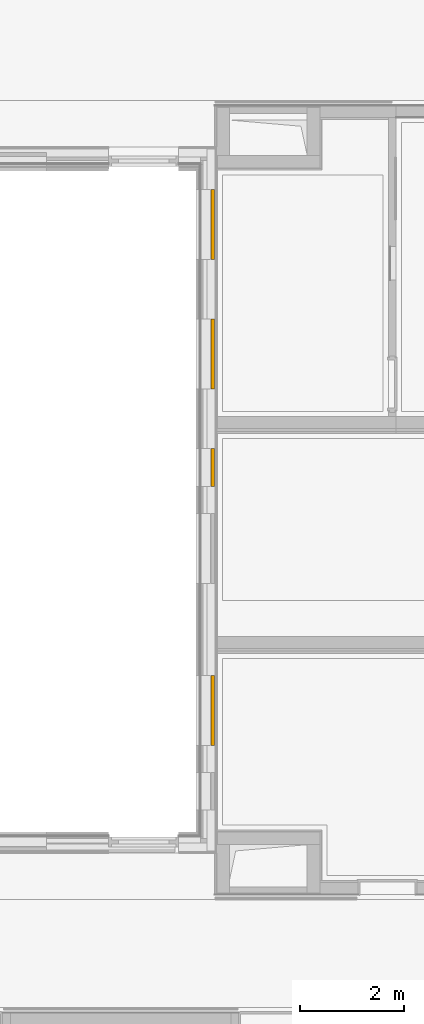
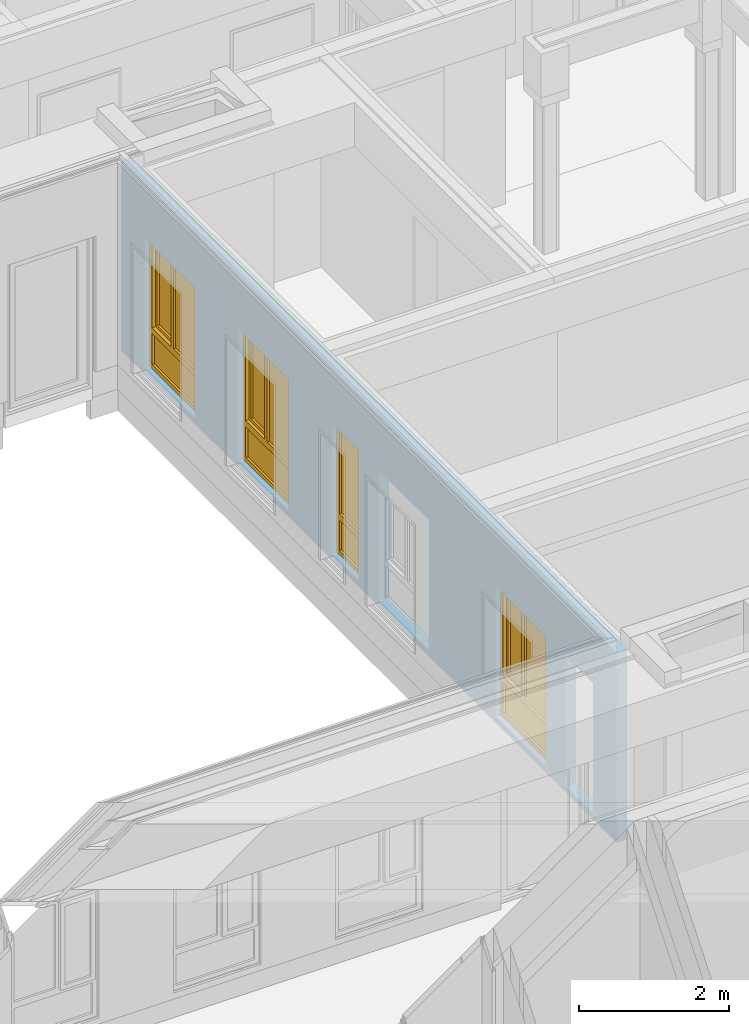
# One storey, part 82 of 207: 4 windows, 6 openings, plus 1 element that does not belong to this part.
"""IFC4 building model written with IfcOpenShell, lengths in metres."""

from ifc_helpers import new_model, entity, si_unit, converted_unit, derived_unit, frame, frame_2d, origin, origin_with_axes, place, context, subcontext, project, spatial, polyline, rectangle, outline, extrude, closed_shell, open_shell, surface_model, source, transform, mapped, material, element, fill, save


model = new_model("IFC4")

# Units and contexts
model_context = context("Model", 3, precision=1e-05, world=origin())
body_context = subcontext(model_context, "Body", "Model", "MODEL_VIEW")
ifc_project = project(units=[si_unit("LENGTHUNIT", "METRE"), si_unit("AREAUNIT", "SQUARE_METRE"), si_unit("VOLUMEUNIT", "CUBIC_METRE"), si_unit("MASSUNIT", "GRAM", prefix="KILO"), converted_unit("PLANEANGLEUNIT", "DEGREE", entity("IfcPlaneAngleMeasure", 0.0174532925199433), si_unit("PLANEANGLEUNIT", "RADIAN"), dimensions=[0, 0, 0, 0, 0, 0, 0]), derived_unit("THERMALTRANSMITTANCEUNIT", [(si_unit("POWERUNIT", "WATT"), 1), (si_unit("THERMODYNAMICTEMPERATUREUNIT", "KELVIN"), -1), (si_unit("LENGTHUNIT", "METRE"), -2)]), derived_unit("VOLUMETRICFLOWRATEUNIT", [(si_unit("LENGTHUNIT", "METRE"), 3), (converted_unit("TIMEUNIT", "hour", entity("IfcTimeMeasure", 3600.0), si_unit("TIMEUNIT", "SECOND"), dimensions=[0, 0, 1, 0, 0, 0, 0]), -1), (si_unit("LENGTHUNIT", "METRE"), -1)])], contexts=[model_context])

# Site, building, storey
site_placement = place(None, origin())
site = spatial("IfcSite", under=ifc_project, at=site_placement, Name="Psychiatrie Neubau Wunstorf", CompositionType="ELEMENT")
building_placement = place(site_placement, origin())
building = spatial("IfcBuilding", under=site, at=building_placement, Name="Neubau H2 Stationsgebäude", CompositionType="ELEMENT")
storey_placement = place(building_placement, frame((0.0, 0.0, -0.2)))
storey = spatial("IfcBuildingStorey", under=building, at=storey_placement, Name="H2 Ebene 0", CompositionType="ELEMENT", Elevation=-0.2)

# Wall, openings, windows
ifc_material = material(Name="WA-HD")
wall_placement = place(storey_placement, frame((26.825, 7.61, 0.5), z_axis=(0.0, 0.0, 1.0), x_axis=(5.49959003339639e-16, 1.0, 0.0)))
wall = element("IfcWall", 1, at=wall_placement, inside=storey, material=ifc_material, context=body_context, shape_type="SweptSolid", body=[
    extrude(rectangle(XDim=13.23, YDim=0.16, at=frame_2d((6.615, 0.08), x_axis=(1.0, 0.0))), origin_with_axes(), (0.0, 0.0, 1.0), 3.1),
])
opening_1_placement = place(wall_placement, frame((3.23244477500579, 0.159999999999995, 0.1), z_axis=(0.0, -1.0, 0.0), x_axis=(0.0, 0.0, 1.0)))
opening_1 = element("IfcOpeningElement", 2, at=opening_1_placement, cuts=wall, Name="Fensteröffnung", ObjectType="Opening", context=body_context, shape_type="SweptSolid", body=[
    extrude(outline(polyline([(2.12, 1.35), (2.12, 0.0), (0.0, 0.0), (0.0, 1.35), (2.12, 1.35)])), origin_with_axes(), (0.0, 0.0, 1.0), 0.16),
])
opening_2_placement = place(wall_placement, frame((7.60505754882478, 0.160000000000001, 0.1), z_axis=(0.0, -1.0, 0.0), x_axis=(0.0, 0.0, 1.0)))
opening_2 = element("IfcOpeningElement", 3, at=opening_2_placement, cuts=wall, Name="Fensteröffnung", ObjectType="Opening", context=body_context, shape_type="SweptSolid", body=[
    extrude(outline(polyline([(2.12, 0.725), (2.12, 0.0), (0.0, 0.0), (0.0, 0.725), (2.12, 0.725)])), origin_with_axes(), (0.0, 0.0, 1.0), 0.16),
])
opening_3_placement = place(wall_placement, frame((12.605, 0.159999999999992, 0.1), z_axis=(0.0, -1.0, 0.0), x_axis=(0.0, 0.0, 1.0)))
opening_3 = element("IfcOpeningElement", 4, at=opening_3_placement, cuts=wall, Name="Fensteröffnung", ObjectType="Opening", context=body_context, shape_type="SweptSolid", body=[
    extrude(outline(polyline([(2.12, 1.35), (2.12, 0.0), (0.0, 0.0), (0.0, 1.35), (2.12, 1.35)])), origin_with_axes(), (0.0, 0.0, 1.0), 0.16),
])
opening_4_placement = place(wall_placement, frame((10.1054401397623, 0.159999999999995, 0.1), z_axis=(0.0, -1.0, 0.0), x_axis=(0.0, 0.0, 1.0)))
opening_4 = element("IfcOpeningElement", 5, at=opening_4_placement, cuts=wall, Name="Fensteröffnung", ObjectType="Opening", context=body_context, shape_type="SweptSolid", body=[
    extrude(outline(polyline([(2.15, 1.35), (2.15, 0.0), (0.0, 0.0), (0.0, 1.35), (2.15, 1.35)])), origin_with_axes(), (0.0, 0.0, 1.0), 0.16),
])
opening_5_placement = place(wall_placement, frame((1.35744478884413, 0.15999999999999, 0.1), z_axis=(0.0, -1.0, 0.0), x_axis=(0.0, 0.0, 1.0)))
element("IfcOpeningElement", 6, at=opening_5_placement, cuts=wall, Name="Fensteröffnung", ObjectType="Opening", context=body_context, shape_type="SweptSolid", body=[
    extrude(outline(polyline([(2.12, 0.725), (2.12, 0.0), (0.0, 0.0), (0.0, 0.725), (2.12, 0.725)])), origin_with_axes(), (0.0, 0.0, 1.0), 0.16),
])
opening_6_placement = place(wall_placement, frame((6.35580066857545, 0.159999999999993, 0.1), z_axis=(0.0, -1.0, 0.0), x_axis=(0.0, 0.0, 1.0)))
element("IfcOpeningElement", 7, at=opening_6_placement, cuts=wall, Name="Fensteröffnung", ObjectType="Opening", context=body_context, shape_type="SweptSolid", body=[
    extrude(outline(polyline([(2.12, 1.35), (2.12, 0.0), (0.0, 0.0), (0.0, 1.35), (2.12, 1.35)])), origin_with_axes(), (0.0, 0.0, 1.0), 0.16),
])
shared_shape_1 = source(origin_with_axes(), body_context, "Body", "SurfaceModel", [
    surface_model("IfcShellBasedSurfaceModel", [(1.35, 0.0, 2.12), (1.35, 0.0, 0.0), (1.28, 0.0, 0.0), (1.28, 0.0, 2.12), (1.35, 0.0700000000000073, 0.0), (1.35, 0.0700000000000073, 2.12), (1.28, 0.0700000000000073, 2.12), (1.28, 0.0700000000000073, 0.0)], [closed_shell([[[0, 1, 2, 3]], [[4, 5, 6, 7]], [[1, 0, 5, 4]], [[2, 1, 4, 7]], [[3, 2, 7, 6]], [[0, 3, 6, 5]]], orient=[[False], [False], [False], [False], [False], [False]])]),
    surface_model("IfcShellBasedSurfaceModel", [(0.0699999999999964, 0.0, 2.12), (0.0699999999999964, 0.0, 0.0), (0.0, 0.0, 0.0), (0.0, 0.0, 2.12), (0.0699999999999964, 0.0700000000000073, 0.0), (0.0699999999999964, 0.0700000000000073, 2.12), (0.0, 0.0700000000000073, 2.12), (0.0, 0.0700000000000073, 0.0)], [closed_shell([[[0, 1, 2, 3]], [[4, 5, 6, 7]], [[1, 0, 5, 4]], [[2, 1, 4, 7]], [[3, 2, 7, 6]], [[0, 3, 6, 5]]], orient=[[False], [False], [False], [False], [False], [False]])]),
    surface_model("IfcShellBasedSurfaceModel", [(1.28, 0.0, 0.07), (1.28, 0.0, 0.0), (0.0699999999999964, 0.0, 0.0), (0.0699999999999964, 0.0, 0.07), (1.28, 0.0700000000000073, 0.0), (1.28, 0.0700000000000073, 0.07), (0.0699999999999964, 0.0700000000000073, 0.07), (0.0699999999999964, 0.0700000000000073, 0.0)], [closed_shell([[[0, 1, 2, 3]], [[4, 5, 6, 7]], [[1, 0, 5, 4]], [[2, 1, 4, 7]], [[3, 2, 7, 6]], [[0, 3, 6, 5]]], orient=[[False], [False], [False], [False], [False], [False]])]),
    surface_model("IfcShellBasedSurfaceModel", [(1.28, 0.0, 2.12), (1.28, 0.0, 2.05), (0.0699999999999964, 0.0, 2.05), (0.0699999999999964, 0.0, 2.12), (1.28, 0.0700000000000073, 2.05), (1.28, 0.0700000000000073, 2.12), (0.0699999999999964, 0.0700000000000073, 2.12), (0.0699999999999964, 0.0700000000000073, 2.05)], [closed_shell([[[0, 1, 2, 3]], [[4, 5, 6, 7]], [[1, 0, 5, 4]], [[2, 1, 4, 7]], [[3, 2, 7, 6]], [[0, 3, 6, 5]]], orient=[[False], [False], [False], [False], [False], [False]])]),
    surface_model("IfcShellBasedSurfaceModel", [(1.28, 0.0, 0.67), (1.28, 0.0, 0.57), (0.0699999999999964, 0.0, 0.57), (0.0699999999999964, 0.0, 0.67), (1.28, 0.0700000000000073, 0.57), (1.28, 0.0700000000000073, 0.67), (0.0699999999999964, 0.0700000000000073, 0.67), (0.0699999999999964, 0.0700000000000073, 0.57)], [closed_shell([[[0, 1, 2, 3]], [[4, 5, 6, 7]], [[1, 0, 5, 4]], [[2, 1, 4, 7]], [[3, 2, 7, 6]], [[0, 3, 6, 5]]], orient=[[False], [False], [False], [False], [False], [False]])]),
    surface_model("IfcShellBasedSurfaceModel", [(1.28, 0.0350000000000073, 0.07), (0.0699999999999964, 0.0350000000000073, 0.07), (0.0699999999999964, 0.0350000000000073, 0.57), (1.28, 0.0350000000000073, 0.57)], [open_shell([[[0, 1, 2, 3]]], orient=[[False]])]),
    surface_model("IfcShellBasedSurfaceModel", [(0.779999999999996, 0.0, 2.05), (0.779999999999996, 0.0, 0.67), (0.709999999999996, 0.0, 0.67), (0.709999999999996, 0.0, 2.05), (0.779999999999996, 0.0700000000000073, 0.67), (0.779999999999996, 0.0700000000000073, 2.05), (0.709999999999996, 0.0700000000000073, 2.05), (0.709999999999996, 0.0700000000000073, 0.67)], [closed_shell([[[0, 1, 2, 3]], [[4, 5, 6, 7]], [[1, 0, 5, 4]], [[2, 1, 4, 7]], [[3, 2, 7, 6]], [[0, 3, 6, 5]]], orient=[[False], [False], [False], [False], [False], [False]])]),
    surface_model("IfcShellBasedSurfaceModel", [(1.3, -0.0499999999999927, 2.07), (1.3, -0.0499999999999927, 0.65), (1.23, -0.0499999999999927, 0.65), (1.23, -0.0499999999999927, 2.07), (1.3, 0.0200000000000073, 0.65), (1.3, 0.0200000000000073, 2.07), (1.23, 0.0200000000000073, 2.07), (1.23, 0.0200000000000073, 0.65)], [closed_shell([[[0, 1, 2, 3]], [[4, 5, 6, 7]], [[1, 0, 5, 4]], [[2, 1, 4, 7]], [[3, 2, 7, 6]], [[0, 3, 6, 5]]], orient=[[False], [False], [False], [False], [False], [False]])]),
    surface_model("IfcShellBasedSurfaceModel", [(0.829999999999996, -0.0499999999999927, 2.07), (0.829999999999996, -0.0499999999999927, 0.65), (0.759999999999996, -0.0499999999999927, 0.65), (0.759999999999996, -0.0499999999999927, 2.07), (0.829999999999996, 0.0200000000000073, 0.65), (0.829999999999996, 0.0200000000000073, 2.07), (0.759999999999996, 0.0200000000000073, 2.07), (0.759999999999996, 0.0200000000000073, 0.65)], [closed_shell([[[0, 1, 2, 3]], [[4, 5, 6, 7]], [[1, 0, 5, 4]], [[2, 1, 4, 7]], [[3, 2, 7, 6]], [[0, 3, 6, 5]]], orient=[[False], [False], [False], [False], [False], [False]])]),
    surface_model("IfcShellBasedSurfaceModel", [(1.23, -0.0499999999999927, 0.72), (1.23, -0.0499999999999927, 0.65), (0.829999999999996, -0.0499999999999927, 0.65), (0.829999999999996, -0.0499999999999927, 0.72), (1.23, 0.0200000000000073, 0.65), (1.23, 0.0200000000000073, 0.72), (0.829999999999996, 0.0200000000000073, 0.72), (0.829999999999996, 0.0200000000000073, 0.65)], [closed_shell([[[0, 1, 2, 3]], [[4, 5, 6, 7]], [[1, 0, 5, 4]], [[2, 1, 4, 7]], [[3, 2, 7, 6]], [[0, 3, 6, 5]]], orient=[[False], [False], [False], [False], [False], [False]])]),
    surface_model("IfcShellBasedSurfaceModel", [(1.23, -0.0499999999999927, 2.07), (1.23, -0.0499999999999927, 2.0), (0.829999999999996, -0.0499999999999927, 2.0), (0.829999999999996, -0.0499999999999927, 2.07), (1.23, 0.0200000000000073, 2.0), (1.23, 0.0200000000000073, 2.07), (0.829999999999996, 0.0200000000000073, 2.07), (0.829999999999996, 0.0200000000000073, 2.0)], [closed_shell([[[0, 1, 2, 3]], [[4, 5, 6, 7]], [[1, 0, 5, 4]], [[2, 1, 4, 7]], [[3, 2, 7, 6]], [[0, 3, 6, 5]]], orient=[[False], [False], [False], [False], [False], [False]])]),
    surface_model("IfcShellBasedSurfaceModel", [(0.709999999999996, 0.0350000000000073, 0.67), (0.0699999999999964, 0.0350000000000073, 0.67), (0.0699999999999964, 0.0350000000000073, 2.05), (0.709999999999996, 0.0350000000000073, 2.05)], [open_shell([[[0, 1, 2, 3]]], orient=[[False]])]),
    surface_model("IfcShellBasedSurfaceModel", [(1.23, -0.0149999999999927, 0.72), (0.829999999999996, -0.0149999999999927, 0.72), (0.829999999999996, -0.0149999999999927, 2.0), (1.23, -0.0149999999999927, 2.0)], [open_shell([[[0, 1, 2, 3]]], orient=[[False]])]),
])
window_1_placement = place(opening_1_placement, frame((0.0, 1.35, 0.146000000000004), z_axis=(1.0, 0.0, 0.0), x_axis=(0.0, -1.0, -5.49959003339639e-16)))
window_1 = element("IfcWindow", 8, at=window_1_placement, inside=storey, Name="Fenster", OverallHeight=2.12, OverallWidth=1.35, PartitioningType="USERDEFINED", PredefinedType="WINDOW", context=body_context, shape_type="MappedRepresentation", body=[
    mapped(shared_shape_1, transform((0.0, 0.0, 0.0), x_axis=(1.0, 0.0, 0.0), y_axis=(0.0, 1.0, 0.0), z_axis=(0.0, 0.0, 1.0), scale=1.0)),
])
fill(opening_1, window_1)
shared_shape_2 = source(origin_with_axes(), body_context, "Body", "SurfaceModel", [
    surface_model("IfcShellBasedSurfaceModel", [(0.725000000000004, 0.0, 2.12), (0.725000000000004, 0.0, 0.0), (0.655000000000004, 0.0, 0.0), (0.655000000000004, 0.0, 2.12), (0.725000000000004, 0.0699999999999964, 0.0), (0.725000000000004, 0.0699999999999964, 2.12), (0.655000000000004, 0.0699999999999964, 2.12), (0.655000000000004, 0.0699999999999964, 0.0)], [closed_shell([[[0, 1, 2, 3]], [[4, 5, 6, 7]], [[1, 0, 5, 4]], [[2, 1, 4, 7]], [[3, 2, 7, 6]], [[0, 3, 6, 5]]], orient=[[False], [False], [False], [False], [False], [False]])]),
    surface_model("IfcShellBasedSurfaceModel", [(0.0700000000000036, 0.0, 2.12), (0.0700000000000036, 0.0, 0.0), (0.0, 0.0, 0.0), (0.0, 0.0, 2.12), (0.0700000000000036, 0.0699999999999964, 0.0), (0.0700000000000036, 0.0699999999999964, 2.12), (0.0, 0.0699999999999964, 2.12), (0.0, 0.0699999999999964, 0.0)], [closed_shell([[[0, 1, 2, 3]], [[4, 5, 6, 7]], [[1, 0, 5, 4]], [[2, 1, 4, 7]], [[3, 2, 7, 6]], [[0, 3, 6, 5]]], orient=[[False], [False], [False], [False], [False], [False]])]),
    surface_model("IfcShellBasedSurfaceModel", [(0.655000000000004, 0.0, 0.07), (0.655000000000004, 0.0, 0.0), (0.0700000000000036, 0.0, 0.0), (0.0700000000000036, 0.0, 0.07), (0.655000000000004, 0.0699999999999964, 0.0), (0.655000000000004, 0.0699999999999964, 0.07), (0.0700000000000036, 0.0699999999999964, 0.07), (0.0700000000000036, 0.0699999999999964, 0.0)], [closed_shell([[[0, 1, 2, 3]], [[4, 5, 6, 7]], [[1, 0, 5, 4]], [[2, 1, 4, 7]], [[3, 2, 7, 6]], [[0, 3, 6, 5]]], orient=[[False], [False], [False], [False], [False], [False]])]),
    surface_model("IfcShellBasedSurfaceModel", [(0.655000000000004, 0.0, 2.12), (0.655000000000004, 0.0, 2.05), (0.0700000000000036, 0.0, 2.05), (0.0700000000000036, 0.0, 2.12), (0.655000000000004, 0.0699999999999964, 2.05), (0.655000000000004, 0.0699999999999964, 2.12), (0.0700000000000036, 0.0699999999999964, 2.12), (0.0700000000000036, 0.0699999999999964, 2.05)], [closed_shell([[[0, 1, 2, 3]], [[4, 5, 6, 7]], [[1, 0, 5, 4]], [[2, 1, 4, 7]], [[3, 2, 7, 6]], [[0, 3, 6, 5]]], orient=[[False], [False], [False], [False], [False], [False]])]),
    surface_model("IfcShellBasedSurfaceModel", [(0.655000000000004, 0.0, 0.67), (0.655000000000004, 0.0, 0.57), (0.0700000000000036, 0.0, 0.57), (0.0700000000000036, 0.0, 0.67), (0.655000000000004, 0.0699999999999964, 0.57), (0.655000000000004, 0.0699999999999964, 0.67), (0.0700000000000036, 0.0699999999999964, 0.67), (0.0700000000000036, 0.0699999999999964, 0.57)], [closed_shell([[[0, 1, 2, 3]], [[4, 5, 6, 7]], [[1, 0, 5, 4]], [[2, 1, 4, 7]], [[3, 2, 7, 6]], [[0, 3, 6, 5]]], orient=[[False], [False], [False], [False], [False], [False]])]),
    surface_model("IfcShellBasedSurfaceModel", [(0.655000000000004, 0.0349999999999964, 0.07), (0.0700000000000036, 0.0349999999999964, 0.07), (0.0700000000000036, 0.0349999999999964, 0.57), (0.655000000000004, 0.0349999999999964, 0.57)], [open_shell([[[0, 1, 2, 3]]], orient=[[False]])]),
    surface_model("IfcShellBasedSurfaceModel", [(0.655000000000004, 0.0349999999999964, 0.67), (0.0700000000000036, 0.0349999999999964, 0.67), (0.0700000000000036, 0.0349999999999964, 2.05), (0.655000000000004, 0.0349999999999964, 2.05)], [open_shell([[[0, 1, 2, 3]]], orient=[[False]])]),
])
window_2_placement = place(opening_2_placement, frame((0.0, 0.0, 0.076), z_axis=(1.0, 0.0, 0.0), x_axis=(0.0, 1.0, 5.49959003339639e-16)))
window_2 = element("IfcWindow", 9, at=window_2_placement, inside=storey, Name="Fenster", OverallHeight=2.12, OverallWidth=0.725, PartitioningType="USERDEFINED", PredefinedType="WINDOW", context=body_context, shape_type="MappedRepresentation", body=[
    mapped(shared_shape_2, transform((0.0, 0.0, 0.0), x_axis=(1.0, 0.0, 0.0), y_axis=(0.0, 1.0, 0.0), z_axis=(0.0, 0.0, 1.0), scale=1.0)),
])
fill(opening_2, window_2)
shared_shape_3 = source(origin_with_axes(), body_context, "Body", "SurfaceModel", [
    surface_model("IfcShellBasedSurfaceModel", [(1.34999999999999, 0.0, 2.12), (1.34999999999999, 0.0, 0.0), (1.27999999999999, 0.0, 0.0), (1.27999999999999, 0.0, 2.12), (1.34999999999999, 0.0700000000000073, 0.0), (1.34999999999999, 0.0700000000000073, 2.12), (1.27999999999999, 0.0700000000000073, 2.12), (1.27999999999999, 0.0700000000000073, 0.0)], [closed_shell([[[0, 1, 2, 3]], [[4, 5, 6, 7]], [[1, 0, 5, 4]], [[2, 1, 4, 7]], [[3, 2, 7, 6]], [[0, 3, 6, 5]]], orient=[[False], [False], [False], [False], [False], [False]])]),
    surface_model("IfcShellBasedSurfaceModel", [(0.0699999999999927, 0.0, 2.12), (0.0699999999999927, 0.0, 0.0), (0.0, 0.0, 0.0), (0.0, 0.0, 2.12), (0.0699999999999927, 0.0700000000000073, 0.0), (0.0699999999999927, 0.0700000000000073, 2.12), (0.0, 0.0700000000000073, 2.12), (0.0, 0.0700000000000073, 0.0)], [closed_shell([[[0, 1, 2, 3]], [[4, 5, 6, 7]], [[1, 0, 5, 4]], [[2, 1, 4, 7]], [[3, 2, 7, 6]], [[0, 3, 6, 5]]], orient=[[False], [False], [False], [False], [False], [False]])]),
    surface_model("IfcShellBasedSurfaceModel", [(1.27999999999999, 0.0, 0.07), (1.27999999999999, 0.0, 0.0), (0.0699999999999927, 0.0, 0.0), (0.0699999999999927, 0.0, 0.07), (1.27999999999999, 0.0700000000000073, 0.0), (1.27999999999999, 0.0700000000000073, 0.07), (0.0699999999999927, 0.0700000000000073, 0.07), (0.0699999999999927, 0.0700000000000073, 0.0)], [closed_shell([[[0, 1, 2, 3]], [[4, 5, 6, 7]], [[1, 0, 5, 4]], [[2, 1, 4, 7]], [[3, 2, 7, 6]], [[0, 3, 6, 5]]], orient=[[False], [False], [False], [False], [False], [False]])]),
    surface_model("IfcShellBasedSurfaceModel", [(1.27999999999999, 0.0, 2.12), (1.27999999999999, 0.0, 2.05), (0.0699999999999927, 0.0, 2.05), (0.0699999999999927, 0.0, 2.12), (1.27999999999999, 0.0700000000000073, 2.05), (1.27999999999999, 0.0700000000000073, 2.12), (0.0699999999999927, 0.0700000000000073, 2.12), (0.0699999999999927, 0.0700000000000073, 2.05)], [closed_shell([[[0, 1, 2, 3]], [[4, 5, 6, 7]], [[1, 0, 5, 4]], [[2, 1, 4, 7]], [[3, 2, 7, 6]], [[0, 3, 6, 5]]], orient=[[False], [False], [False], [False], [False], [False]])]),
    surface_model("IfcShellBasedSurfaceModel", [(1.27999999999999, 0.0, 0.67), (1.27999999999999, 0.0, 0.57), (0.0699999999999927, 0.0, 0.57), (0.0699999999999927, 0.0, 0.67), (1.27999999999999, 0.0700000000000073, 0.57), (1.27999999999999, 0.0700000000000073, 0.67), (0.0699999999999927, 0.0700000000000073, 0.67), (0.0699999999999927, 0.0700000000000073, 0.57)], [closed_shell([[[0, 1, 2, 3]], [[4, 5, 6, 7]], [[1, 0, 5, 4]], [[2, 1, 4, 7]], [[3, 2, 7, 6]], [[0, 3, 6, 5]]], orient=[[False], [False], [False], [False], [False], [False]])]),
    surface_model("IfcShellBasedSurfaceModel", [(1.27999999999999, 0.0350000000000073, 0.07), (0.0699999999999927, 0.0350000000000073, 0.07), (0.0699999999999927, 0.0350000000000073, 0.57), (1.27999999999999, 0.0350000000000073, 0.57)], [open_shell([[[0, 1, 2, 3]]], orient=[[False]])]),
    surface_model("IfcShellBasedSurfaceModel", [(0.779999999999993, 0.0, 2.05), (0.779999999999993, 0.0, 0.67), (0.709999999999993, 0.0, 0.67), (0.709999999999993, 0.0, 2.05), (0.779999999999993, 0.0700000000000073, 0.67), (0.779999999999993, 0.0700000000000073, 2.05), (0.709999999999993, 0.0700000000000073, 2.05), (0.709999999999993, 0.0700000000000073, 0.67)], [closed_shell([[[0, 1, 2, 3]], [[4, 5, 6, 7]], [[1, 0, 5, 4]], [[2, 1, 4, 7]], [[3, 2, 7, 6]], [[0, 3, 6, 5]]], orient=[[False], [False], [False], [False], [False], [False]])]),
    surface_model("IfcShellBasedSurfaceModel", [(1.29999999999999, -0.0499999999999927, 2.07), (1.29999999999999, -0.0499999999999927, 0.65), (1.22999999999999, -0.0499999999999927, 0.65), (1.22999999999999, -0.0499999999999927, 2.07), (1.29999999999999, 0.0200000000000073, 0.65), (1.29999999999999, 0.0200000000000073, 2.07), (1.22999999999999, 0.0200000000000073, 2.07), (1.22999999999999, 0.0200000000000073, 0.65)], [closed_shell([[[0, 1, 2, 3]], [[4, 5, 6, 7]], [[1, 0, 5, 4]], [[2, 1, 4, 7]], [[3, 2, 7, 6]], [[0, 3, 6, 5]]], orient=[[False], [False], [False], [False], [False], [False]])]),
    surface_model("IfcShellBasedSurfaceModel", [(0.829999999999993, -0.0499999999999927, 2.07), (0.829999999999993, -0.0499999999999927, 0.65), (0.759999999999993, -0.0499999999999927, 0.65), (0.759999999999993, -0.0499999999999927, 2.07), (0.829999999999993, 0.0200000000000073, 0.65), (0.829999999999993, 0.0200000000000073, 2.07), (0.759999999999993, 0.0200000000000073, 2.07), (0.759999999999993, 0.0200000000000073, 0.65)], [closed_shell([[[0, 1, 2, 3]], [[4, 5, 6, 7]], [[1, 0, 5, 4]], [[2, 1, 4, 7]], [[3, 2, 7, 6]], [[0, 3, 6, 5]]], orient=[[False], [False], [False], [False], [False], [False]])]),
    surface_model("IfcShellBasedSurfaceModel", [(1.22999999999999, -0.0499999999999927, 0.72), (1.22999999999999, -0.0499999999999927, 0.65), (0.829999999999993, -0.0499999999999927, 0.65), (0.829999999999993, -0.0499999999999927, 0.72), (1.22999999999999, 0.0200000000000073, 0.65), (1.22999999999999, 0.0200000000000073, 0.72), (0.829999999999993, 0.0200000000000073, 0.72), (0.829999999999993, 0.0200000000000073, 0.65)], [closed_shell([[[0, 1, 2, 3]], [[4, 5, 6, 7]], [[1, 0, 5, 4]], [[2, 1, 4, 7]], [[3, 2, 7, 6]], [[0, 3, 6, 5]]], orient=[[False], [False], [False], [False], [False], [False]])]),
    surface_model("IfcShellBasedSurfaceModel", [(1.22999999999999, -0.0499999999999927, 2.07), (1.22999999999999, -0.0499999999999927, 2.0), (0.829999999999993, -0.0499999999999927, 2.0), (0.829999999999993, -0.0499999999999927, 2.07), (1.22999999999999, 0.0200000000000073, 2.0), (1.22999999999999, 0.0200000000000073, 2.07), (0.829999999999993, 0.0200000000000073, 2.07), (0.829999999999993, 0.0200000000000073, 2.0)], [closed_shell([[[0, 1, 2, 3]], [[4, 5, 6, 7]], [[1, 0, 5, 4]], [[2, 1, 4, 7]], [[3, 2, 7, 6]], [[0, 3, 6, 5]]], orient=[[False], [False], [False], [False], [False], [False]])]),
    surface_model("IfcShellBasedSurfaceModel", [(0.709999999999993, 0.0350000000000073, 0.67), (0.0699999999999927, 0.0350000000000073, 0.67), (0.0699999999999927, 0.0350000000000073, 2.05), (0.709999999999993, 0.0350000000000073, 2.05)], [open_shell([[[0, 1, 2, 3]]], orient=[[False]])]),
    surface_model("IfcShellBasedSurfaceModel", [(1.22999999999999, -0.0149999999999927, 0.72), (0.829999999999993, -0.0149999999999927, 0.72), (0.829999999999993, -0.0149999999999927, 2.0), (1.22999999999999, -0.0149999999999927, 2.0)], [open_shell([[[0, 1, 2, 3]]], orient=[[False]])]),
])
window_3_placement = place(opening_3_placement, frame((0.0, 1.35, 0.146), z_axis=(1.0, 0.0, 0.0), x_axis=(0.0, -1.0, -5.49959003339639e-16)))
window_3 = element("IfcWindow", 10, at=window_3_placement, inside=storey, Name="Fenster", OverallHeight=2.12, OverallWidth=1.35, PartitioningType="USERDEFINED", PredefinedType="WINDOW", context=body_context, shape_type="MappedRepresentation", body=[
    mapped(shared_shape_3, transform((0.0, 0.0, 0.0), x_axis=(1.0, 0.0, 0.0), y_axis=(0.0, 1.0, 0.0), z_axis=(0.0, 0.0, 1.0), scale=1.0)),
])
fill(opening_3, window_3)
shared_shape_4 = source(origin_with_axes(), body_context, "Body", "SurfaceModel", [
    surface_model("IfcShellBasedSurfaceModel", [(1.34999999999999, 0.0, 2.15), (1.34999999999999, 0.0, 0.0), (1.27999999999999, 0.0, 0.0), (1.27999999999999, 0.0, 2.15), (1.34999999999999, 0.0700000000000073, 0.0), (1.34999999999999, 0.0700000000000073, 2.15), (1.27999999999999, 0.0700000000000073, 2.15), (1.27999999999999, 0.0700000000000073, 0.0)], [closed_shell([[[0, 1, 2, 3]], [[4, 5, 6, 7]], [[1, 0, 5, 4]], [[2, 1, 4, 7]], [[3, 2, 7, 6]], [[0, 3, 6, 5]]], orient=[[False], [False], [False], [False], [False], [False]])]),
    surface_model("IfcShellBasedSurfaceModel", [(0.0699999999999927, 0.0, 2.15), (0.0699999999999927, 0.0, 0.0), (0.0, 0.0, 0.0), (0.0, 0.0, 2.15), (0.0699999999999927, 0.0700000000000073, 0.0), (0.0699999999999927, 0.0700000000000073, 2.15), (0.0, 0.0700000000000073, 2.15), (0.0, 0.0700000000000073, 0.0)], [closed_shell([[[0, 1, 2, 3]], [[4, 5, 6, 7]], [[1, 0, 5, 4]], [[2, 1, 4, 7]], [[3, 2, 7, 6]], [[0, 3, 6, 5]]], orient=[[False], [False], [False], [False], [False], [False]])]),
    surface_model("IfcShellBasedSurfaceModel", [(1.27999999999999, 0.0, 0.07), (1.27999999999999, 0.0, 0.0), (0.0699999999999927, 0.0, 0.0), (0.0699999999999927, 0.0, 0.07), (1.27999999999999, 0.0700000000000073, 0.0), (1.27999999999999, 0.0700000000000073, 0.07), (0.0699999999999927, 0.0700000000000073, 0.07), (0.0699999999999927, 0.0700000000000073, 0.0)], [closed_shell([[[0, 1, 2, 3]], [[4, 5, 6, 7]], [[1, 0, 5, 4]], [[2, 1, 4, 7]], [[3, 2, 7, 6]], [[0, 3, 6, 5]]], orient=[[False], [False], [False], [False], [False], [False]])]),
    surface_model("IfcShellBasedSurfaceModel", [(1.27999999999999, 0.0, 2.15), (1.27999999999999, 0.0, 2.08), (0.0699999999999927, 0.0, 2.08), (0.0699999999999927, 0.0, 2.15), (1.27999999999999, 0.0700000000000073, 2.08), (1.27999999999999, 0.0700000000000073, 2.15), (0.0699999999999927, 0.0700000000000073, 2.15), (0.0699999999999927, 0.0700000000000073, 2.08)], [closed_shell([[[0, 1, 2, 3]], [[4, 5, 6, 7]], [[1, 0, 5, 4]], [[2, 1, 4, 7]], [[3, 2, 7, 6]], [[0, 3, 6, 5]]], orient=[[False], [False], [False], [False], [False], [False]])]),
    surface_model("IfcShellBasedSurfaceModel", [(1.27999999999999, 0.0, 0.67), (1.27999999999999, 0.0, 0.57), (0.0699999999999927, 0.0, 0.57), (0.0699999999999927, 0.0, 0.67), (1.27999999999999, 0.0700000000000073, 0.57), (1.27999999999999, 0.0700000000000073, 0.67), (0.0699999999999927, 0.0700000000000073, 0.67), (0.0699999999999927, 0.0700000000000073, 0.57)], [closed_shell([[[0, 1, 2, 3]], [[4, 5, 6, 7]], [[1, 0, 5, 4]], [[2, 1, 4, 7]], [[3, 2, 7, 6]], [[0, 3, 6, 5]]], orient=[[False], [False], [False], [False], [False], [False]])]),
    surface_model("IfcShellBasedSurfaceModel", [(1.27999999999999, 0.0350000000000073, 0.07), (0.0699999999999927, 0.0350000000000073, 0.07), (0.0699999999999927, 0.0350000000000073, 0.57), (1.27999999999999, 0.0350000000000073, 0.57)], [open_shell([[[0, 1, 2, 3]]], orient=[[False]])]),
    surface_model("IfcShellBasedSurfaceModel", [(0.779999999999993, 0.0, 2.08), (0.779999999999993, 0.0, 0.67), (0.709999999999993, 0.0, 0.67), (0.709999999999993, 0.0, 2.08), (0.779999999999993, 0.0700000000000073, 0.67), (0.779999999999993, 0.0700000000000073, 2.08), (0.709999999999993, 0.0700000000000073, 2.08), (0.709999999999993, 0.0700000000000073, 0.67)], [closed_shell([[[0, 1, 2, 3]], [[4, 5, 6, 7]], [[1, 0, 5, 4]], [[2, 1, 4, 7]], [[3, 2, 7, 6]], [[0, 3, 6, 5]]], orient=[[False], [False], [False], [False], [False], [False]])]),
    surface_model("IfcShellBasedSurfaceModel", [(1.29999999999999, -0.0499999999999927, 2.1), (1.29999999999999, -0.0499999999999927, 0.65), (1.22999999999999, -0.0499999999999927, 0.65), (1.22999999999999, -0.0499999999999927, 2.1), (1.29999999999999, 0.0200000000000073, 0.65), (1.29999999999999, 0.0200000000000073, 2.1), (1.22999999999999, 0.0200000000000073, 2.1), (1.22999999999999, 0.0200000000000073, 0.65)], [closed_shell([[[0, 1, 2, 3]], [[4, 5, 6, 7]], [[1, 0, 5, 4]], [[2, 1, 4, 7]], [[3, 2, 7, 6]], [[0, 3, 6, 5]]], orient=[[False], [False], [False], [False], [False], [False]])]),
    surface_model("IfcShellBasedSurfaceModel", [(0.829999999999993, -0.0499999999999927, 2.1), (0.829999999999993, -0.0499999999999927, 0.65), (0.759999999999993, -0.0499999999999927, 0.65), (0.759999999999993, -0.0499999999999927, 2.1), (0.829999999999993, 0.0200000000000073, 0.65), (0.829999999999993, 0.0200000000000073, 2.1), (0.759999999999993, 0.0200000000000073, 2.1), (0.759999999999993, 0.0200000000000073, 0.65)], [closed_shell([[[0, 1, 2, 3]], [[4, 5, 6, 7]], [[1, 0, 5, 4]], [[2, 1, 4, 7]], [[3, 2, 7, 6]], [[0, 3, 6, 5]]], orient=[[False], [False], [False], [False], [False], [False]])]),
    surface_model("IfcShellBasedSurfaceModel", [(1.22999999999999, -0.0499999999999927, 0.72), (1.22999999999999, -0.0499999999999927, 0.65), (0.829999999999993, -0.0499999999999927, 0.65), (0.829999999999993, -0.0499999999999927, 0.72), (1.22999999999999, 0.0200000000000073, 0.65), (1.22999999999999, 0.0200000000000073, 0.72), (0.829999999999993, 0.0200000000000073, 0.72), (0.829999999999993, 0.0200000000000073, 0.65)], [closed_shell([[[0, 1, 2, 3]], [[4, 5, 6, 7]], [[1, 0, 5, 4]], [[2, 1, 4, 7]], [[3, 2, 7, 6]], [[0, 3, 6, 5]]], orient=[[False], [False], [False], [False], [False], [False]])]),
    surface_model("IfcShellBasedSurfaceModel", [(1.22999999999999, -0.0499999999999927, 2.1), (1.22999999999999, -0.0499999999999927, 2.03), (0.829999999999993, -0.0499999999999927, 2.03), (0.829999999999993, -0.0499999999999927, 2.1), (1.22999999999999, 0.0200000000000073, 2.03), (1.22999999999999, 0.0200000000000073, 2.1), (0.829999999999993, 0.0200000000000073, 2.1), (0.829999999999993, 0.0200000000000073, 2.03)], [closed_shell([[[0, 1, 2, 3]], [[4, 5, 6, 7]], [[1, 0, 5, 4]], [[2, 1, 4, 7]], [[3, 2, 7, 6]], [[0, 3, 6, 5]]], orient=[[False], [False], [False], [False], [False], [False]])]),
    surface_model("IfcShellBasedSurfaceModel", [(0.709999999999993, 0.0350000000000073, 0.67), (0.0699999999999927, 0.0350000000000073, 0.67), (0.0699999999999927, 0.0350000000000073, 2.08), (0.709999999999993, 0.0350000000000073, 2.08)], [open_shell([[[0, 1, 2, 3]]], orient=[[False]])]),
    surface_model("IfcShellBasedSurfaceModel", [(1.22999999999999, -0.0149999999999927, 0.72), (0.829999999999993, -0.0149999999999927, 0.72), (0.829999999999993, -0.0149999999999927, 2.03), (1.22999999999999, -0.0149999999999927, 2.03)], [open_shell([[[0, 1, 2, 3]]], orient=[[False]])]),
])
window_4_placement = place(opening_4_placement, frame((0.0, 1.35, 0.146000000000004), z_axis=(1.0, 0.0, 0.0), x_axis=(0.0, -1.0, -5.49959003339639e-16)))
window_4 = element("IfcWindow", 11, at=window_4_placement, inside=storey, Name="Fenster", OverallHeight=2.15, OverallWidth=1.35, PartitioningType="USERDEFINED", PredefinedType="WINDOW", context=body_context, shape_type="MappedRepresentation", body=[
    mapped(shared_shape_4, transform((0.0, 0.0, 0.0), x_axis=(1.0, 0.0, 0.0), y_axis=(0.0, 1.0, 0.0), z_axis=(0.0, 0.0, 1.0), scale=1.0)),
])
fill(opening_4, window_4)

save(model, "model.ifc")
